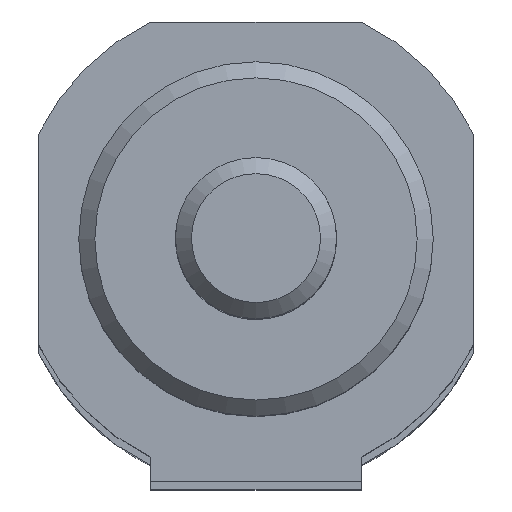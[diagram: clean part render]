
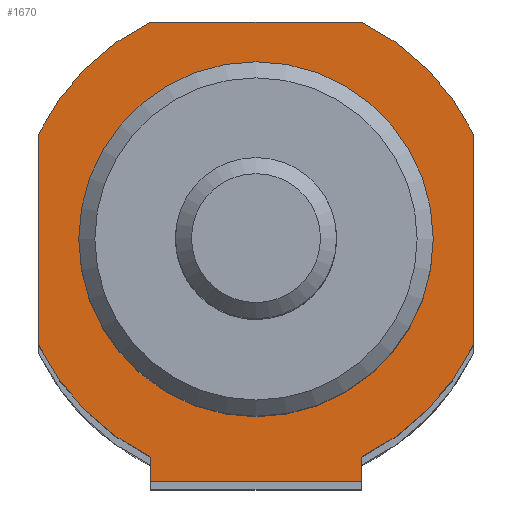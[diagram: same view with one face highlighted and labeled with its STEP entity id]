
A CAD part, top view. The second image highlights one B-rep face of the part: STEP entity #1670.
In plain terms, the highlighted planar face has unit normal (0, 0, 1).
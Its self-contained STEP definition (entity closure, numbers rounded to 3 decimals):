
#101=CARTESIAN_POINT('',(6.538,-15.,336.0));
#102=VERTEX_POINT('',#101);
#103=CARTESIAN_POINT('',(-6.538,-15.,336.0));
#104=VERTEX_POINT('',#103);
#105=CARTESIAN_POINT('',(6.538,-15.,336.0));
#106=DIRECTION('',(-1.0,0.0,0.0));
#107=VECTOR('',#106,13.077);
#108=LINE('',#105,#107);
#109=EDGE_CURVE('',#102,#104,#108,.T.);
#257=CARTESIAN_POINT('',(-6.538,-13.5,336.0));
#258=VERTEX_POINT('',#257);
#272=CARTESIAN_POINT('',(-6.538,-13.5,336.0));
#273=DIRECTION('',(0.0,-1.0,0.0));
#274=VECTOR('',#273,1.5);
#275=LINE('',#272,#274);
#276=EDGE_CURVE('',#258,#104,#275,.T.);
#288=CARTESIAN_POINT('',(6.538,-13.5,336.0));
#289=VERTEX_POINT('',#288);
#296=CARTESIAN_POINT('',(6.538,-13.5,336.0));
#297=DIRECTION('',(0.0,-1.0,0.0));
#298=VECTOR('',#297,1.5);
#299=LINE('',#296,#298);
#300=EDGE_CURVE('',#289,#102,#299,.T.);
#1398=CARTESIAN_POINT('',(11.0,0.,336.0));
#1399=VERTEX_POINT('',#1398);
#1400=CARTESIAN_POINT('',(0.0,0.0,336.0));
#1401=DIRECTION('',(0.0,0.0,-1.0));
#1402=DIRECTION('',(-1.0,0.0,0.0));
#1403=AXIS2_PLACEMENT_3D('',#1400,#1401,#1402);
#1404=CIRCLE('',#1403,11.0);
#1405=EDGE_CURVE('',#1399,#1399,#1404,.T.);
#1490=CARTESIAN_POINT('',(-6.538,13.5,336.0));
#1491=VERTEX_POINT('',#1490);
#1492=CARTESIAN_POINT('',(6.538,13.5,336.0));
#1493=VERTEX_POINT('',#1492);
#1494=CARTESIAN_POINT('',(-6.538,13.5,336.0));
#1495=DIRECTION('',(1.0,0.0,0.0));
#1496=VECTOR('',#1495,13.077);
#1497=LINE('',#1494,#1496);
#1498=EDGE_CURVE('',#1491,#1493,#1497,.T.);
#1521=CARTESIAN_POINT('',(13.5,6.538,336.0));
#1522=VERTEX_POINT('',#1521);
#1523=CARTESIAN_POINT('',(0.,0.,336.0));
#1524=DIRECTION('',(0.,0.,-1.0));
#1525=DIRECTION('',(0.9,0.436,0.));
#1526=AXIS2_PLACEMENT_3D('',#1523,#1524,#1525);
#1527=CIRCLE('',#1526,15.);
#1528=EDGE_CURVE('',#1493,#1522,#1527,.T.);
#1546=CARTESIAN_POINT('',(13.5,-6.538,336.0));
#1547=VERTEX_POINT('',#1546);
#1548=CARTESIAN_POINT('',(13.5,6.538,336.0));
#1549=DIRECTION('',(0.0,-1.0,0.0));
#1550=VECTOR('',#1549,13.077);
#1551=LINE('',#1548,#1550);
#1552=EDGE_CURVE('',#1522,#1547,#1551,.T.);
#1570=CARTESIAN_POINT('',(0.,0.,336.0));
#1571=DIRECTION('',(0.,0.,-1.0));
#1572=DIRECTION('',(0.436,-0.9,0.));
#1573=AXIS2_PLACEMENT_3D('',#1570,#1571,#1572);
#1574=CIRCLE('',#1573,15.);
#1575=EDGE_CURVE('',#1547,#289,#1574,.T.);
#1588=CARTESIAN_POINT('',(-13.5,-6.538,336.0));
#1589=VERTEX_POINT('',#1588);
#1590=CARTESIAN_POINT('',(0.,0.,336.0));
#1591=DIRECTION('',(0.,0.,-1.0));
#1592=DIRECTION('',(-0.9,-0.436,0.));
#1593=AXIS2_PLACEMENT_3D('',#1590,#1591,#1592);
#1594=CIRCLE('',#1593,15.);
#1595=EDGE_CURVE('',#258,#1589,#1594,.T.);
#1613=CARTESIAN_POINT('',(-13.5,6.538,336.0));
#1614=VERTEX_POINT('',#1613);
#1615=CARTESIAN_POINT('',(-13.5,-6.538,336.0));
#1616=DIRECTION('',(0.0,1.0,0.0));
#1617=VECTOR('',#1616,13.077);
#1618=LINE('',#1615,#1617);
#1619=EDGE_CURVE('',#1589,#1614,#1618,.T.);
#1637=CARTESIAN_POINT('',(0.,0.,336.0));
#1638=DIRECTION('',(0.,0.,-1.0));
#1639=DIRECTION('',(-0.436,0.9,0.));
#1640=AXIS2_PLACEMENT_3D('',#1637,#1638,#1639);
#1641=CIRCLE('',#1640,15.);
#1642=EDGE_CURVE('',#1614,#1491,#1641,.T.);
#1650=CARTESIAN_POINT('',(0.,0.0,336.0));
#1651=DIRECTION('',(0.0,0.0,1.0));
#1652=DIRECTION('',(1.0,0.0,0.0));
#1653=AXIS2_PLACEMENT_3D('',#1650,#1651,#1652);
#1654=PLANE('',#1653);
#1655=ORIENTED_EDGE('',*,*,#1498,.F.);
#1656=ORIENTED_EDGE('',*,*,#1642,.F.);
#1657=ORIENTED_EDGE('',*,*,#1619,.F.);
#1658=ORIENTED_EDGE('',*,*,#1595,.F.);
#1659=ORIENTED_EDGE('',*,*,#276,.T.);
#1660=ORIENTED_EDGE('',*,*,#109,.F.);
#1661=ORIENTED_EDGE('',*,*,#300,.F.);
#1662=ORIENTED_EDGE('',*,*,#1575,.F.);
#1663=ORIENTED_EDGE('',*,*,#1552,.F.);
#1664=ORIENTED_EDGE('',*,*,#1528,.F.);
#1665=EDGE_LOOP('',(#1655,#1656,#1657,#1658,#1659,#1660,#1661,#1662,#1663,#1664));
#1666=FACE_OUTER_BOUND('',#1665,.T.);
#1667=ORIENTED_EDGE('',*,*,#1405,.T.);
#1668=EDGE_LOOP('',(#1667));
#1669=FACE_BOUND('',#1668,.T.);
#1670=ADVANCED_FACE('',(#1666,#1669),#1654,.T.);
